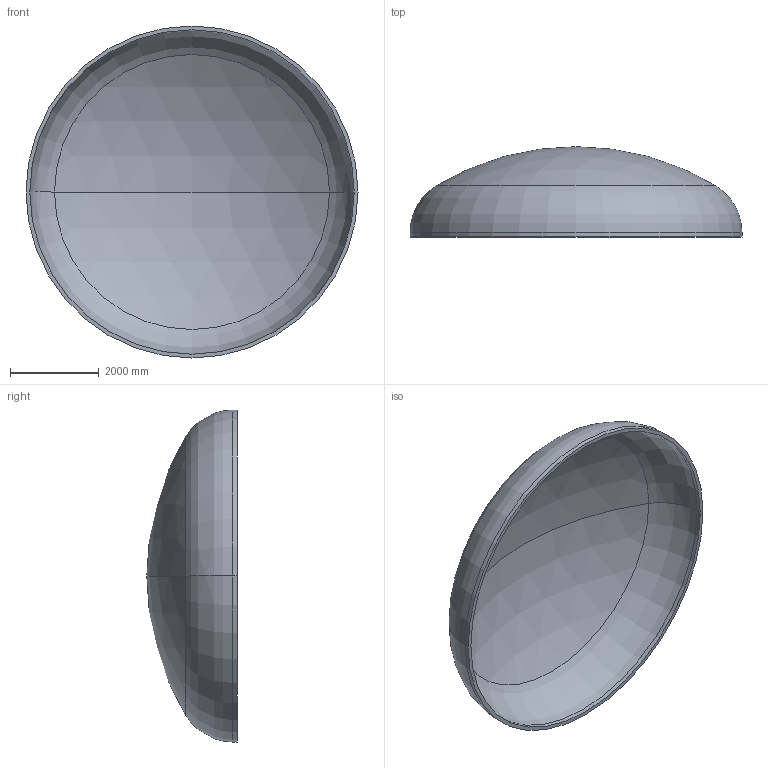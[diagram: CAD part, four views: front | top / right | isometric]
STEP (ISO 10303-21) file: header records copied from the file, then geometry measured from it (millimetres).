
FILE_DESCRIPTION (( 'STEP AP203' ), '1' );
FILE_NAME ('DIN 28013 Korbbogenform_-_Boden DIN 28013 - 7500 x 100 - I - s=86.step', '2016-07-04T10:56:19', ( '' ), ( '' ), 'SwSTEP 2.0', 'SolidWorks 2013', '' );
FILE_SCHEMA (( 'CONFIG_CONTROL_DESIGN' ));
Length unit declared in the file: millimetre
Products named in the file (1): DIN 28013 Korbbogenform_-_Boden DIN 28013 - 7500 x 100 - I - s=86
Bounding box: 7500 x 2041.25 x 7500 mm (x, y, z)
Volume: 5383188308.5 mm3; surface area: 127208959.6 mm2
Topology: 1 solids, 1 shells, 13 faces, 24 edges, 14 vertices
Faces by surface type: torus 4, cylinder 4, sphere 4, plane 1
Entity records: 407 total; most frequent: DIRECTION 72, CARTESIAN_POINT 52, ORIENTED_EDGE 48, AXIS2_PLACEMENT_3D 34, EDGE_CURVE 24, CIRCLE 20, EDGE_LOOP 14, VERTEX_POINT 14
